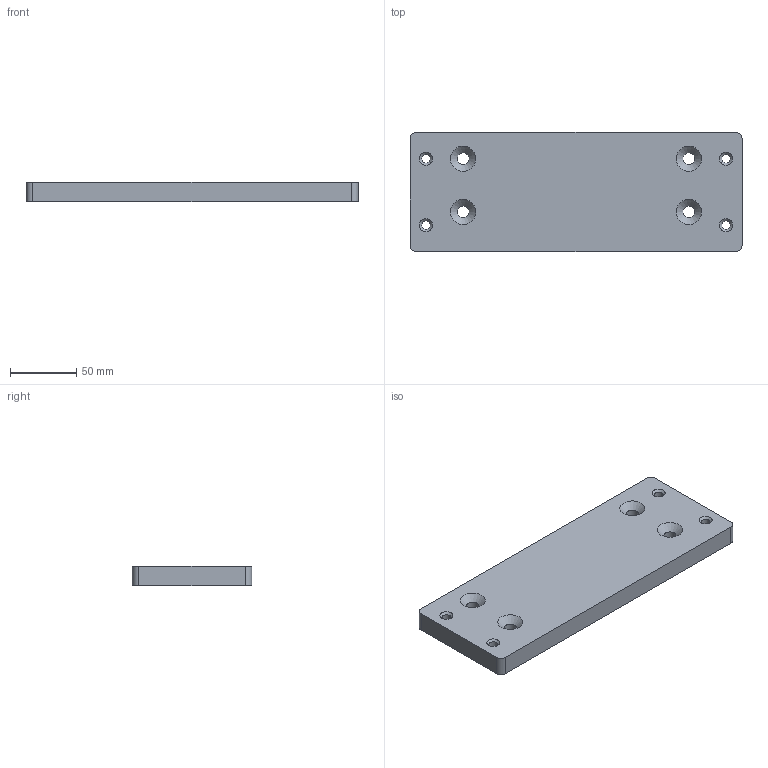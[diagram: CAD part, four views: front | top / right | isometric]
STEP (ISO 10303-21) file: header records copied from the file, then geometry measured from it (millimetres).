
FILE_DESCRIPTION(('STEP AP203'), '1');
FILE_NAME('ÒÏÏÔ1800.01.25.00.006 - Ïëàñòèíà ïîäêëàäíàÿ', '', ('UNSPECIFIED'), ('UNSPECIFIED'), 'C3D Converter', 'C3D Toolkit', '');
FILE_SCHEMA(('CONFIG_CONTROL_DESIGN'));
Length unit declared in the file: millimetre
Products named in the file (1): ТППФ1800.01.25.00.006
Bounding box: 250 x 90 x 15 mm (x, y, z)
Volume: 329217.7 mm3; surface area: 56925.1 mm2
Topology: 1 solids, 1 shells, 26 faces, 64 edges, 40 vertices
Faces by surface type: cylinder 12, cone 8, plane 6
Full cylindrical faces by diameter (mm): 6.647 x4, 9 x4
Entity records: 976 total; most frequent: DIRECTION 134, CARTESIAN_POINT 115, ORIENTED_EDGE 96, AXIS2_PLACEMENT_3D 59, EDGE_LOOP 58, EDGE_CURVE 48, VERTEX_POINT 40, FACE_OUTER_BOUND 32
